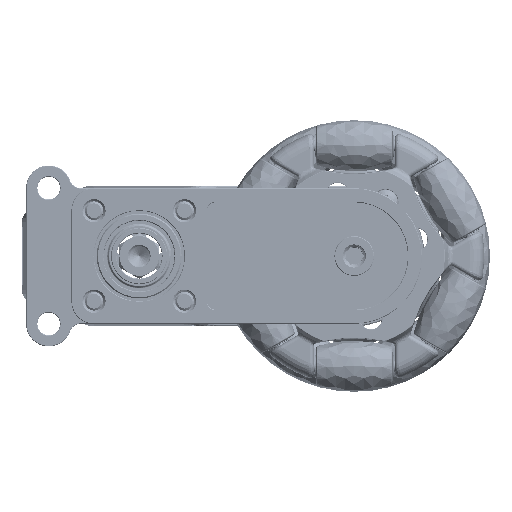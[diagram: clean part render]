
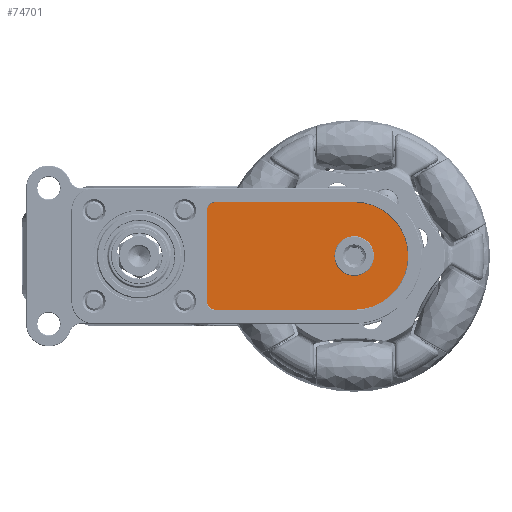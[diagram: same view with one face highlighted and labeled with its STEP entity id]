
A CAD part, front view. The second image highlights one B-rep face of the part: STEP entity #74701.
In plain terms, the highlighted planar face has unit normal (0, -1, 0).
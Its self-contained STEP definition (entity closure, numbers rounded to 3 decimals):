
#2401=FACE_BOUND('',#12764,.T.);
#3694=PLANE('',#83633);
#8065=FACE_OUTER_BOUND('',#12763,.T.);
#12763=EDGE_LOOP('',(#68549,#68550,#68551,#68552,#68553,#68554));
#12764=EDGE_LOOP('',(#68555));
#17231=CIRCLE('',#83619,3.5);
#17233=CIRCLE('',#83622,1.5);
#17235=CIRCLE('',#83626,1.5);
#17237=CIRCLE('',#83630,9.5);
#23675=LINE('',#199508,#28112);
#23679=LINE('',#199520,#28116);
#23683=LINE('',#199530,#28120);
#28112=VECTOR('',#105360,10.);
#28116=VECTOR('',#105372,10.);
#28120=VECTOR('',#105384,10.);
#35087=VERTEX_POINT('',#199492);
#35090=VERTEX_POINT('',#199499);
#35091=VERTEX_POINT('',#199501);
#35093=VERTEX_POINT('',#199507);
#35095=VERTEX_POINT('',#199513);
#35097=VERTEX_POINT('',#199519);
#35099=VERTEX_POINT('',#199525);
#46233=EDGE_CURVE('',#35087,#35087,#17231,.T.);
#46236=EDGE_CURVE('',#35091,#35090,#17233,.T.);
#46239=EDGE_CURVE('',#35093,#35091,#23675,.T.);
#46242=EDGE_CURVE('',#35095,#35093,#17235,.T.);
#46245=EDGE_CURVE('',#35097,#35095,#23679,.T.);
#46248=EDGE_CURVE('',#35099,#35097,#17237,.T.);
#46251=EDGE_CURVE('',#35090,#35099,#23683,.T.);
#68549=ORIENTED_EDGE('',*,*,#46251,.T.);
#68550=ORIENTED_EDGE('',*,*,#46248,.T.);
#68551=ORIENTED_EDGE('',*,*,#46245,.T.);
#68552=ORIENTED_EDGE('',*,*,#46242,.T.);
#68553=ORIENTED_EDGE('',*,*,#46239,.T.);
#68554=ORIENTED_EDGE('',*,*,#46236,.T.);
#68555=ORIENTED_EDGE('',*,*,#46233,.T.);
#74701=ADVANCED_FACE('',(#8065,#2401),#3694,.T.);
#83619=AXIS2_PLACEMENT_3D('',#199494,#105347,#105348);
#83622=AXIS2_PLACEMENT_3D('',#199502,#105354,#105355);
#83626=AXIS2_PLACEMENT_3D('',#199514,#105366,#105367);
#83630=AXIS2_PLACEMENT_3D('',#199526,#105378,#105379);
#83633=AXIS2_PLACEMENT_3D('',#199532,#105387,#105388);
#105347=DIRECTION('center_axis',(0.,1.,0.));
#105348=DIRECTION('ref_axis',(1.,0.,0.));
#105354=DIRECTION('center_axis',(0.,-1.,0.));
#105355=DIRECTION('ref_axis',(0.,0.,-1.));
#105360=DIRECTION('',(0.,0.,-1.));
#105366=DIRECTION('center_axis',(0.,-1.,0.));
#105367=DIRECTION('ref_axis',(-1.,0.,0.));
#105372=DIRECTION('',(-1.,0.,0.));
#105378=DIRECTION('center_axis',(0.,-1.,0.));
#105379=DIRECTION('ref_axis',(0.,0.,1.));
#105384=DIRECTION('',(1.,0.,0.));
#105387=DIRECTION('center_axis',(0.,-1.,0.));
#105388=DIRECTION('ref_axis',(0.,0.,-1.));
#199492=CARTESIAN_POINT('',(-3.5,1.1,0.));
#199494=CARTESIAN_POINT('Origin',(0.,1.1,0.));
#199499=CARTESIAN_POINT('',(-24.5,1.1,-9.5));
#199501=CARTESIAN_POINT('',(-26.,1.1,-8.));
#199502=CARTESIAN_POINT('Origin',(-24.5,1.1,-8.));
#199507=CARTESIAN_POINT('',(-26.,1.1,8.));
#199508=CARTESIAN_POINT('',(-26.,1.1,-4.));
#199513=CARTESIAN_POINT('',(-24.5,1.1,9.5));
#199514=CARTESIAN_POINT('Origin',(-24.5,1.1,8.));
#199519=CARTESIAN_POINT('',(0.,1.1,9.5));
#199520=CARTESIAN_POINT('',(-16.375,1.1,9.5));
#199525=CARTESIAN_POINT('',(0.,1.1,-9.5));
#199526=CARTESIAN_POINT('Origin',(0.,1.1,0.));
#199530=CARTESIAN_POINT('',(-4.125,1.1,-9.5));
#199532=CARTESIAN_POINT('Origin',(-8.25,1.1,0.));
